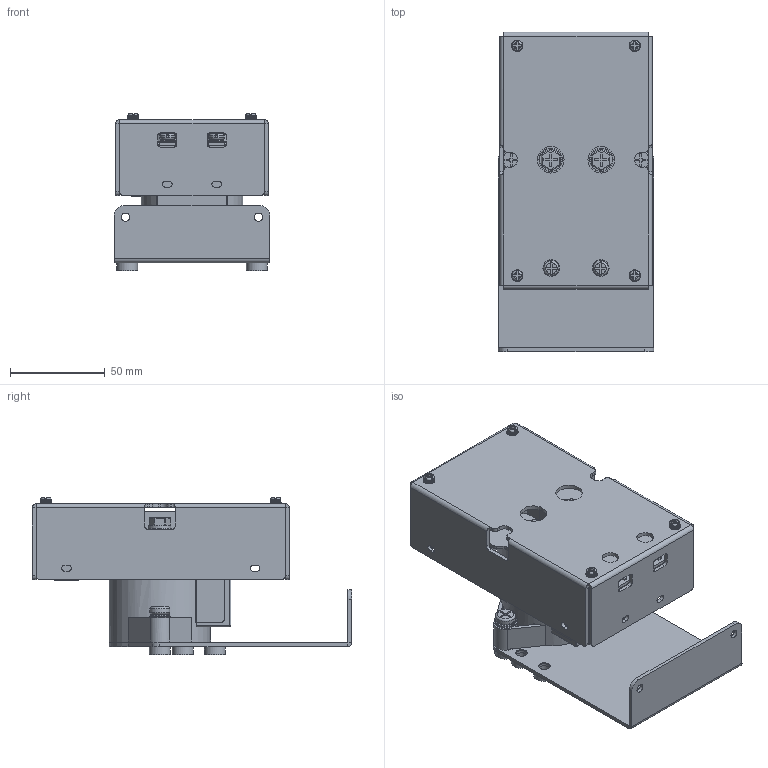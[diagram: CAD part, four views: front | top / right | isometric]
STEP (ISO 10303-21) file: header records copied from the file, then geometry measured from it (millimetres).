
FILE_DESCRIPTION(/* description */ (''),/* implementation_level */ '2;1');
FILE_NAME(/* name */ 'G:\019_BLVD ICL\[ BLVD-50V250A-S ]\[ 3D 파일 ]\[ STEP,IGES ]\[3D] BLVD-25V(50V)250A-S-L.stp',/* time_stamp */ '2025-04-24T14:53:10+09:00',/* author */ ('jjang'),/* organization */ (''),/* preprocessor_version */ 'ST-DEVELOPER v18.1',/* originating_system */ 'Autodesk Inventor 2021',/* authorisation */ '');
FILE_SCHEMA (('CONFIG_CONTROL_DESIGN'));
Products named in the file (1): ICL RELAY ASS'Y_Shrinkwrap_1
Bounding box: 82 x 168.2 x 82.68 mm (x, y, z)
Volume: 243501.1 mm3; surface area: 134472.6 mm2
Topology: 9 solids, 9 shells, 2498 faces, 6851 edges, 4488 vertices
Faces by surface type: plane 1817, cylinder 446, torus 87, cone 68, bspline 48, sphere 32
Full cylindrical faces by diameter (mm): 2.8 x4, 2.957 x8, 3 x5, 3.1 x2, 3.3 x4, 3.5 x2, 3.63 x1, 3.86 x1, 4 x6, 4.2 x2, 4.4 x2, 4.5 x2, 5.429 x4, 5.5 x2, 5.636 x4, 6 x24, 6.5 x2, 7 x1, 7.084 x2, 7.8 x4, 8.8 x2, 10.286 x2, 10.5 x2, 11.05 x6, 12 x1, 12.2 x2, 12.4 x2, 14 x2, 15.1 x2, 50 x1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
Entity records: 84168 total; most frequent: CARTESIAN_POINT 19673, ORIENTED_EDGE 13678, DIRECTION 12816, EDGE_CURVE 6839, LINE 5136, VECTOR 5136, VERTEX_POINT 4488, AXIS2_PLACEMENT_3D 3840
